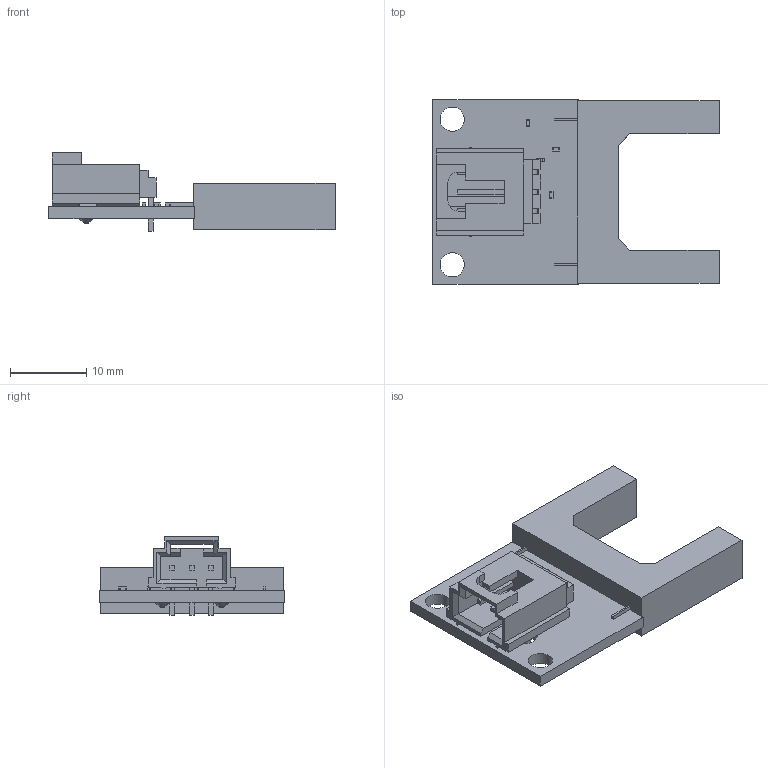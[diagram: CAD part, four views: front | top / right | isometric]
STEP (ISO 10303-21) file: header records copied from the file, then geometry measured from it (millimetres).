
FILE_DESCRIPTION(/* description */ ('Alibre Inc.'),/* implementation_level */ '2;1');
FILE_NAME(/* name */ 'export-E4A2E022-87D2-409E-AB78-5A0735468C91',/* time_stamp */ '2020-07-29T12:53:00-06:00',/* author */ (''),/* organization */ (''),/* preprocessor_version */ 'ST-DEVELOPER v17',/* originating_system */ 'Alibre',/* authorisation */ '');
FILE_SCHEMA (('CONFIG_CONTROL_DESIGN'));
Length unit declared in the file: millimetre
Bounding box: 37.47 x 24.13 x 10.29 mm (x, y, z)
Volume: 2588.3 mm3; surface area: 3105.2 mm2
Topology: 15 solids, 15 shells, 250 faces, 632 edges, 410 vertices
Faces by surface type: plane 227, cylinder 15, cone 4, bspline 4
Full cylindrical faces by diameter (mm): 1.09 x3, 3.175 x2, 3.683 x2
Entity records: 9309 total; most frequent: CARTESIAN_POINT 1480, ORIENTED_EDGE 1112, DIRECTION 915, EDGE_CURVE 556, VECTOR 490, LINE 490, VERTEX_POINT 362, AXIS2_PLACEMENT_3D 308
